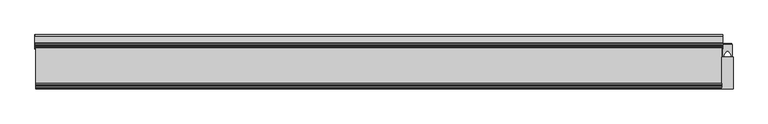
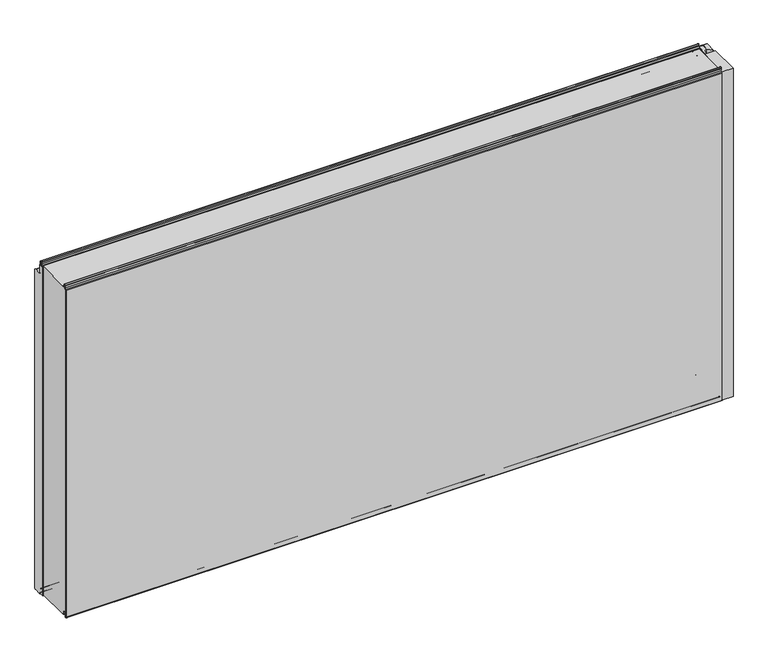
"""IFC4 building model written with IfcOpenShell, lengths in millimetres: plate geometry, Fronttop : Fronttop 150/1000."""

from ifc_helpers import new_model, si_unit, point, frame, frame_2d, origin, origin_with_axes, place, context, project, spatial, polyline, circle_curve, trimmed, segment, composite_curve, outline, extrude, source, transform, mapped, element, save
from ifc_brep_helpers import plane_surface, cylinder_surface, revolved_surface, advanced_brep


def plate_a692c527(model_context):
    return source(origin(), model_context, "Body", "SolidModel", [
        advanced_brep(
        [(-946.5, 124.0, 1008.0), (-946.5, 121.0, 1008.0), (-946.5, 121.0, 1004.0), (-946.5, 117.0, 1000.0), (-946.5, 115.0, 1000.0), (-946.5, 115.0, 1001.0), (-946.5, 117.0, 1001.0), (-946.5, 120.0, 1004.0), (-946.5, 120.0, 1008.0), (-946.5, 125.0, 1008.0), (-946.5, 125.0, 1000.0), (-946.5, 124.0, 1000.0), (946.5, 125.0, 1008.0), (946.5, 120.0, 1008.0), (946.5, 120.0, 1004.0), (946.5, 117.0, 1001.0), (946.5, 115.0, 1001.0), (946.5, 115.0, 1000.0), (946.5, 117.0, 1000.0), (946.5, 121.0, 1004.0), (946.5, 121.0, 1008.0), (946.5, 124.0, 1008.0), (946.5, 124.0, 1000.0), (946.5, 125.0, 1000.0), (-946.5, 117.0, 2.0), (946.5, 117.0, 2.0), (946.5, 115.0, 2.0), (-946.5, 115.0, 2.0), (-946.5, 119.0, 4.0), (946.5, 119.0, 4.0), (-946.5, 119.0, 8.0), (946.5, 119.0, 8.0), (-946.5, 126.0, 8.0), (946.5, 126.0, 8.0), (-946.5, 126.0, 0.0), (946.5, 126.0, 0.0), (-946.5, 129.0, -3.0), (946.5, 129.0, -3.0), (-946.5, 125.0, -3.0), (-947.5, 125.0, -3.0), (-947.5, 147.0, -3.0), (-946.5, 147.0, -3.0), (946.5, 147.0, -3.0), (947.5, 147.0, -3.0), (947.5, 125.0, -3.0), (946.5, 125.0, -3.0), (-946.5, 150.0, 0.0), (946.5, 150.0, 0.0), (-947.5, 150.0, 0.0), (-947.5, 150.0, 969.0), (-946.5, 150.0, 969.0), (946.5, 150.0, 969.0), (947.5, 150.0, 969.0), (947.5, 150.0, 0.0), (-946.5, 147.0, 972.0), (946.5, 147.0, 972.0), (-947.5, 147.0, 972.0), (-947.5, 128.0, 972.0), (-946.5, 128.0, 972.0), (946.5, 128.0, 972.0), (947.5, 128.0, 972.0), (947.5, 147.0, 972.0), (-946.5, 125.0, 975.0), (946.5, 125.0, 975.0), (-947.5, 125.0, 975.0), (-947.5, 125.0, 1000.0), (947.5, 125.0, 1000.0), (947.5, 125.0, 975.0), (-946.5, 124.0, 975.0), (946.5, 124.0, 975.0), (-946.5, 128.0, 971.0), (946.5, 128.0, 971.0), (-946.5, 147.0, 971.0), (946.5, 147.0, 971.0), (-946.5, 149.0, 969.0), (946.5, 149.0, 969.0), (-946.5, 149.0, 0.0), (946.5, 149.0, 0.0), (-946.5, 147.0, -2.0), (946.5, 147.0, -2.0), (-946.5, 129.0, -2.0), (946.5, 129.0, -2.0), (-946.5, 127.0, 0.0), (946.5, 127.0, 0.0), (-946.5, 127.0, 8.0), (946.5, 127.0, 8.0), (-946.5, 118.0, 8.0), (946.5, 118.0, 8.0), (-946.5, 118.0, 4.0), (946.5, 118.0, 4.0), (-946.5, 117.0, 3.0), (946.5, 117.0, 3.0), (-946.5, 115.0, 3.0), (946.5, 115.0, 3.0), (947.5, 110.0, 1000.0), (947.5, 110.0, 0.0), (947.5, 125.0, 0.0), (946.5, 125.0, 0.0), (946.5, 110.0, 0.0), (946.5, 110.0, 1000.0), (-947.5, 125.0, 0.0), (-947.5, 110.0, 0.0), (-947.5, 110.0, 1000.0), (-946.5, 110.0, 1000.0), (-946.5, 110.0, 0.0), (-946.5, 125.0, 0.0)],
        [
            (0, 1, circle_curve(frame((-946.5, 122.5, 1008.0), z_axis=(1.0, 0.0, 0.0), x_axis=(0.0, -1.0, 0.0)), 1.5)),
            (1, 2),
            (2, 3, circle_curve(frame((-946.5, 117.0, 1004.0), z_axis=(-1.0, 0.0, 0.0), x_axis=(0.0, -1.0, 0.0)), 4.0)),
            (3, 4),
            (4, 5),
            (5, 6),
            (6, 7, circle_curve(frame((-946.5, 117.0, 1004.0), z_axis=(1.0, 0.0, 0.0), x_axis=(0.0, -1.0, 0.0)), 3.0)),
            (7, 8),
            (8, 9, circle_curve(frame((-946.5, 122.5, 1008.0), z_axis=(-1.0, 0.0, 0.0), x_axis=(0.0, -1.0, 0.0)), 2.5)),
            (9, 10),
            (10, 11),
            (11, 0),
            (12, 13, circle_curve(frame((946.5, 122.5, 1008.0), z_axis=(1.0, 0.0, 0.0), x_axis=(0.0, -1.0, 0.0)), 2.5)),
            (13, 14),
            (14, 15, circle_curve(frame((946.5, 117.0, 1004.0), z_axis=(-1.0, 0.0, 0.0), x_axis=(0.0, -1.0, 0.0)), 3.0)),
            (15, 16),
            (16, 17),
            (17, 18),
            (18, 19, circle_curve(frame((946.5, 117.0, 1004.0), z_axis=(1.0, 0.0, 0.0), x_axis=(0.0, -1.0, 0.0)), 4.0)),
            (19, 20),
            (20, 21, circle_curve(frame((946.5, 122.5, 1008.0), z_axis=(-1.0, 0.0, 0.0), x_axis=(0.0, -1.0, 0.0)), 1.5)),
            (21, 22),
            (22, 23),
            (23, 12),
            (24, 25),
            (25, 26),
            (26, 27),
            (27, 24),
            (24, 28, circle_curve(frame((-946.5, 117.0, 4.0), z_axis=(1.0, 0.0, 0.0), x_axis=(0.0, -1.0, 0.0)), 2.0)),
            (28, 29),
            (29, 25, circle_curve(frame((946.5, 117.0, 4.0), z_axis=(-1.0, 0.0, 0.0), x_axis=(0.0, -1.0, 0.0)), 2.0)),
            (28, 30),
            (30, 31),
            (31, 29),
            (30, 32, circle_curve(frame((-946.5, 122.5, 8.0), z_axis=(-1.0, 0.0, 0.0), x_axis=(0.0, -1.0, 0.0)), 3.5)),
            (32, 33),
            (33, 31, circle_curve(frame((946.5, 122.5, 8.0), z_axis=(1.0, 0.0, 0.0), x_axis=(0.0, -1.0, 0.0)), 3.5)),
            (32, 34),
            (34, 35),
            (35, 33),
            (34, 36, circle_curve(frame((-946.5, 129.0, 0.0), z_axis=(1.0, 0.0, 0.0), x_axis=(0.0, -1.0, 0.0)), 3.0)),
            (36, 37),
            (37, 35, circle_curve(frame((946.5, 129.0, 0.0), z_axis=(-1.0, 0.0, 0.0), x_axis=(0.0, -1.0, 0.0)), 3.0)),
            (36, 38),
            (38, 39),
            (39, 40),
            (40, 41),
            (41, 42),
            (42, 43),
            (43, 44),
            (44, 45),
            (45, 37),
            (41, 46, circle_curve(frame((-946.5, 147.0, 0.0), z_axis=(1.0, 0.0, 0.0), x_axis=(0.0, -1.0, 0.0)), 3.0)),
            (46, 47),
            (47, 42, circle_curve(frame((946.5, 147.0, 0.0), z_axis=(-1.0, 0.0, 0.0), x_axis=(0.0, -1.0, 0.0)), 3.0)),
            (46, 48),
            (48, 49),
            (49, 50),
            (50, 51),
            (51, 52),
            (52, 53),
            (53, 47),
            (50, 54, circle_curve(frame((-946.5, 147.0, 969.0), z_axis=(1.0, 0.0, 0.0), x_axis=(0.0, -1.0, 0.0)), 3.0)),
            (54, 55),
            (55, 51, circle_curve(frame((946.5, 147.0, 969.0), z_axis=(-1.0, 0.0, 0.0), x_axis=(0.0, -1.0, 0.0)), 3.0)),
            (54, 56),
            (56, 57),
            (57, 58),
            (58, 59),
            (59, 60),
            (60, 61),
            (61, 55),
            (58, 62, circle_curve(frame((-946.5, 128.0, 975.0), z_axis=(-1.0, 0.0, 0.0), x_axis=(0.0, -1.0, 0.0)), 3.0)),
            (62, 63),
            (63, 59, circle_curve(frame((946.5, 128.0, 975.0), z_axis=(1.0, 0.0, 0.0), x_axis=(0.0, -1.0, 0.0)), 3.0)),
            (62, 64),
            (64, 65),
            (65, 10),
            (9, 12),
            (23, 66),
            (66, 67),
            (67, 63),
            (8, 13),
            (7, 14),
            (6, 15),
            (5, 16),
            (4, 17),
            (4, 3),
            (3, 18),
            (18, 17),
            (2, 19),
            (1, 20),
            (0, 21),
            (11, 68),
            (68, 69),
            (69, 22),
            (68, 70, circle_curve(frame((-946.5, 128.0, 975.0), z_axis=(1.0, 0.0, 0.0), x_axis=(0.0, -1.0, 0.0)), 4.0)),
            (70, 71),
            (71, 69, circle_curve(frame((946.5, 128.0, 975.0), z_axis=(-1.0, 0.0, 0.0), x_axis=(0.0, -1.0, 0.0)), 4.0)),
            (70, 72),
            (72, 73),
            (73, 71),
            (72, 74, circle_curve(frame((-946.5, 147.0, 969.0), z_axis=(-1.0, 0.0, 0.0), x_axis=(0.0, -1.0, 0.0)), 2.0)),
            (74, 75),
            (75, 73, circle_curve(frame((946.5, 147.0, 969.0), z_axis=(1.0, 0.0, 0.0), x_axis=(0.0, -1.0, 0.0)), 2.0)),
            (74, 76),
            (76, 77),
            (77, 75),
            (76, 78, circle_curve(frame((-946.5, 147.0, 0.0), z_axis=(-1.0, 0.0, 0.0), x_axis=(0.0, -1.0, 0.0)), 2.0)),
            (78, 79),
            (79, 77, circle_curve(frame((946.5, 147.0, 0.0), z_axis=(1.0, 0.0, 0.0), x_axis=(0.0, -1.0, 0.0)), 2.0)),
            (78, 80),
            (80, 81),
            (81, 79),
            (80, 82, circle_curve(frame((-946.5, 129.0, 0.0), z_axis=(-1.0, 0.0, 0.0), x_axis=(0.0, -1.0, 0.0)), 2.0)),
            (82, 83),
            (83, 81, circle_curve(frame((946.5, 129.0, 0.0), z_axis=(1.0, 0.0, 0.0), x_axis=(0.0, -1.0, 0.0)), 2.0)),
            (82, 84),
            (84, 85),
            (85, 83),
            (84, 86, circle_curve(frame((-946.5, 122.5, 8.0), z_axis=(1.0, 0.0, 0.0), x_axis=(0.0, -1.0, 0.0)), 4.5)),
            (86, 87),
            (87, 85, circle_curve(frame((946.5, 122.5, 8.0), z_axis=(-1.0, 0.0, 0.0), x_axis=(0.0, -1.0, 0.0)), 4.5)),
            (86, 88),
            (88, 89),
            (89, 87),
            (88, 90, circle_curve(frame((-946.5, 117.0, 4.0), z_axis=(-1.0, 0.0, 0.0), x_axis=(0.0, -1.0, 0.0)), 1.0)),
            (90, 91),
            (91, 89, circle_curve(frame((946.5, 117.0, 4.0), z_axis=(1.0, 0.0, 0.0), x_axis=(0.0, -1.0, 0.0)), 1.0)),
            (90, 92),
            (92, 93),
            (93, 91),
            (26, 93),
            (92, 27),
            (66, 94),
            (94, 95),
            (95, 96),
            (96, 44),
            (43, 53, circle_curve(frame((947.5, 147.0, 0.0), z_axis=(1.0, 0.0, 0.0), x_axis=(0.0, 1.0, 0.0)), 3.0)),
            (52, 61, circle_curve(frame((947.5, 147.0, 969.0), z_axis=(1.0, 0.0, 0.0), x_axis=(0.0, 1.0, 0.0)), 3.0)),
            (60, 67, circle_curve(frame((947.5, 128.0, 975.0), z_axis=(-1.0, 0.0, 0.0), x_axis=(0.0, 1.0, 0.0)), 3.0)),
            (45, 97),
            (97, 98),
            (98, 99),
            (99, 17),
            (18, 22),
            (99, 94),
            (98, 95),
            (97, 96),
            (64, 57, circle_curve(frame((-947.5, 128.0, 975.0), z_axis=(1.0, 0.0, 0.0), x_axis=(0.0, 1.0, 0.0)), 3.0)),
            (56, 49, circle_curve(frame((-947.5, 147.0, 969.0), z_axis=(-1.0, 0.0, 0.0), x_axis=(0.0, 1.0, 0.0)), 3.0)),
            (48, 40, circle_curve(frame((-947.5, 147.0, 0.0), z_axis=(-1.0, 0.0, 0.0), x_axis=(0.0, 1.0, 0.0)), 3.0)),
            (39, 100),
            (100, 101),
            (101, 102),
            (102, 65),
            (103, 104),
            (104, 105),
            (105, 38),
            (11, 3),
            (4, 103),
            (102, 103),
            (101, 104),
            (100, 105),
        ],
        [
            plane_surface(frame((-946.5, 0.0, 0.0), z_axis=(-1.0, 0.0, 0.0), x_axis=(0.0, 0.0, 1.0))),
            plane_surface(frame((946.5, 0.0, 0.0), z_axis=(1.0, 0.0, 0.0), x_axis=(0.0, 0.0, 1.0))),
            plane_surface(frame((-946.5, 117.0, 2.0), z_axis=(0.0, 0.0, -1.0), x_axis=(1.0, 0.0, 0.0))),
            cylinder_surface(frame((-946.5, 117.0, 4.0), z_axis=(-1.0, 0.0, 0.0), x_axis=(0.0, -1.0, 0.0)), 2.0),
            plane_surface(frame((-946.5, 119.0, 8.0), z_axis=(0.0, 1.0, 0.0), x_axis=(1.0, 0.0, 0.0))),
            revolved_surface(polyline([(946.5, 119.0, 8.0), (-946.5, 119.0, 8.0)]), (-946.5, 122.5, 8.0), (1.0, 0.0, 0.0)),
            plane_surface(frame((-946.5, 126.0, 0.0), z_axis=(0.0, -1.0, 0.0), x_axis=(1.0, 0.0, 0.0))),
            cylinder_surface(frame((-946.5, 129.0, 0.0), z_axis=(-1.0, 0.0, 0.0), x_axis=(0.0, -1.0, 0.0)), 3.0),
            plane_surface(frame((-946.5, 147.0, -3.0), z_axis=(0.0, 0.0, -1.0), x_axis=(1.0, 0.0, 0.0))),
            cylinder_surface(frame((-946.5, 147.0, 0.0), z_axis=(-1.0, 0.0, 0.0), x_axis=(0.0, -1.0, 0.0)), 3.0),
            plane_surface(frame((-946.5, 150.0, 969.0), z_axis=(0.0, 1.0, 0.0), x_axis=(1.0, 0.0, 0.0))),
            cylinder_surface(frame((-946.5, 147.0, 969.0), z_axis=(-1.0, 0.0, 0.0), x_axis=(0.0, -1.0, 0.0)), 3.0),
            plane_surface(frame((-946.5, 128.0, 972.0), z_axis=(0.0, 0.0, 1.0), x_axis=(1.0, 0.0, 0.0))),
            revolved_surface(polyline([(946.5, 125.0, 975.0), (-946.5, 125.0, 975.0)]), (-946.5, 128.0, 975.0), (1.0, 0.0, 0.0)),
            plane_surface(frame((-946.5, 125.0, 1008.0), z_axis=(0.0, 1.0, 0.0), x_axis=(1.0, 0.0, 0.0))),
            cylinder_surface(frame((-946.5, 122.5, 1008.0), z_axis=(-1.0, 0.0, 0.0), x_axis=(0.0, -1.0, 0.0)), 2.5),
            plane_surface(frame((-946.5, 120.0, 1004.0), z_axis=(0.0, -1.0, 0.0), x_axis=(1.0, 0.0, 0.0))),
            revolved_surface(polyline([(946.5, 114.0, 1004.0), (-946.5, 114.0, 1004.0)]), (-946.5, 117.0, 1004.0), (1.0, 0.0, 0.0)),
            plane_surface(frame((-946.5, 115.0, 1001.0), z_axis=(0.0, 0.0, 1.0), x_axis=(1.0, 0.0, 0.0))),
            plane_surface(frame((-946.5, 115.0, 1000.0), z_axis=(0.0, -1.0, 0.0), x_axis=(1.0, 0.0, 0.0))),
            plane_surface(frame((-946.5, 117.0, 1000.0), z_axis=(0.0, 0.0, -1.0), x_axis=(1.0, 0.0, 0.0))),
            cylinder_surface(frame((-946.5, 117.0, 1004.0), z_axis=(-1.0, 0.0, 0.0), x_axis=(0.0, -1.0, 0.0)), 4.0),
            plane_surface(frame((-946.5, 121.0, 1008.0), z_axis=(0.0, 1.0, 0.0), x_axis=(1.0, 0.0, 0.0))),
            revolved_surface(polyline([(946.5, 121.0, 1008.0), (-946.5, 121.0, 1008.0)]), (-946.5, 122.5, 1008.0), (1.0, 0.0, 0.0)),
            plane_surface(frame((-946.5, 124.0, 975.0), z_axis=(0.0, -1.0, 0.0), x_axis=(1.0, 0.0, 0.0))),
            cylinder_surface(frame((-946.5, 128.0, 975.0), z_axis=(-1.0, 0.0, 0.0), x_axis=(0.0, -1.0, 0.0)), 4.0),
            plane_surface(frame((-946.5, 147.0, 971.0), z_axis=(0.0, 0.0, -1.0), x_axis=(1.0, 0.0, 0.0))),
            revolved_surface(polyline([(946.5, 145.0, 969.0), (-946.5, 145.0, 969.0)]), (-946.5, 147.0, 969.0), (1.0, 0.0, 0.0)),
            plane_surface(frame((-946.5, 149.0, 0.0), z_axis=(0.0, -1.0, 0.0), x_axis=(1.0, 0.0, 0.0))),
            revolved_surface(polyline([(946.5, 145.0, 0.0), (-946.5, 145.0, 0.0)]), (-946.5, 147.0, 0.0), (1.0, 0.0, 0.0)),
            plane_surface(frame((-946.5, 129.0, -2.0), z_axis=(0.0, 0.0, 1.0), x_axis=(1.0, 0.0, 0.0))),
            revolved_surface(polyline([(946.5, 127.0, 0.0), (-946.5, 127.0, 0.0)]), (-946.5, 129.0, 0.0), (1.0, 0.0, 0.0)),
            plane_surface(frame((-946.5, 127.0, 8.0), z_axis=(0.0, 1.0, 0.0), x_axis=(1.0, 0.0, 0.0))),
            cylinder_surface(frame((-946.5, 122.5, 8.0), z_axis=(-1.0, 0.0, 0.0), x_axis=(0.0, -1.0, 0.0)), 4.5),
            plane_surface(frame((-946.5, 118.0, 4.0), z_axis=(0.0, -1.0, 0.0), x_axis=(1.0, 0.0, 0.0))),
            revolved_surface(polyline([(946.5, 116.0, 4.0), (-946.5, 116.0, 4.0)]), (-946.5, 117.0, 4.0), (1.0, 0.0, 0.0)),
            plane_surface(frame((-946.5, 115.0, 3.0), z_axis=(0.0, 0.0, 1.0), x_axis=(1.0, 0.0, 0.0))),
            plane_surface(frame((-946.5, 115.0, 2.0), z_axis=(0.0, -1.0, 0.0), x_axis=(1.0, 0.0, 0.0))),
            plane_surface(frame((947.5, 125.0, 1000.0), z_axis=(1.0, 0.0, 0.0), x_axis=(0.0, -1.0, 0.0))),
            plane_surface(frame((946.5, 125.0, 1000.0), z_axis=(-1.0, 0.0, 0.0), x_axis=(0.0, 1.0, 0.0))),
            plane_surface(frame((947.5, 125.0, 1000.0), z_axis=(0.0, 0.0, 1.0), x_axis=(-1.0, 0.0, 0.0))),
            plane_surface(frame((947.5, 110.0, 1000.0), z_axis=(0.0, -1.0, 0.0), x_axis=(-1.0, 0.0, 0.0))),
            plane_surface(frame((947.5, 110.0, 0.0), z_axis=(0.0, 0.0, -1.0), x_axis=(-1.0, 0.0, 0.0))),
            cylinder_surface(frame((946.5, 147.0, 0.0), z_axis=(1.0, 0.0, 0.0), x_axis=(0.0, 1.0, 0.0)), 3.0),
            cylinder_surface(frame((946.5, 147.0, 969.0), z_axis=(1.0, 0.0, 0.0), x_axis=(0.0, 1.0, 0.0)), 3.0),
            revolved_surface(polyline([(946.5, 131.0, 975.0), (947.5, 131.0, 975.0)]), (946.5, 128.0, 975.0), (-1.0, 0.0, 0.0)),
            plane_surface(frame((-947.5, 125.0, 1000.0), z_axis=(-1.0, 0.0, 0.0), x_axis=(0.0, 1.0, 0.0))),
            plane_surface(frame((-946.5, 125.0, 1000.0), z_axis=(1.0, 0.0, 0.0), x_axis=(0.0, -1.0, 0.0))),
            plane_surface(frame((-946.5, 125.0, 1000.0), z_axis=(0.0, 0.0, 1.0), x_axis=(-1.0, 0.0, 0.0))),
            plane_surface(frame((-946.5, 110.0, 1000.0), z_axis=(0.0, -1.0, 0.0), x_axis=(-1.0, 0.0, 0.0))),
            plane_surface(frame((-946.5, 110.0, 0.0), z_axis=(0.0, 0.0, -1.0), x_axis=(-1.0, 0.0, 0.0))),
            cylinder_surface(frame((-947.5, 147.0, 0.0), z_axis=(1.0, 0.0, 0.0), x_axis=(0.0, 1.0, 0.0)), 3.0),
            cylinder_surface(frame((-947.5, 147.0, 969.0), z_axis=(1.0, 0.0, 0.0), x_axis=(0.0, 1.0, 0.0)), 3.0),
            revolved_surface(polyline([(-947.5, 131.0, 975.0), (-946.5, 131.0, 975.0)]), (-947.5, 128.0, 975.0), (-1.0, 0.0, 0.0)),
            plane_surface(frame((947.5, 125.0, 0.0), z_axis=(0.0, -1.0, 0.0), x_axis=(-1.0, 0.0, 0.0))),
            plane_surface(frame((-946.5, 125.0, 0.0), z_axis=(0.0, -1.0, 0.0), x_axis=(-1.0, 0.0, 0.0))),
        ],
        [
            (0, [[1, 2, 3, 4, 5, 6, 7, 8, 9, 10, 11, 12]]),
            (1, [[13, 14, 15, 16, 17, 18, 19, 20, 21, 22, 23, 24]]),
            (2, [[25, 26, 27, 28]]),
            (3, [[-25, 29, 30, 31]]),
            (4, [[-30, 32, 33, 34]]),
            (5, [[-33, 35, 36, 37]]),
            (6, [[-36, 38, 39, 40]]),
            (7, [[-39, 41, 42, 43]]),
            (8, [[-42, 44, 45, 46, 47, 48, 49, 50, 51, 52]]),
            (9, [[-48, 53, 54, 55]]),
            (10, [[-54, 56, 57, 58, 59, 60, 61, 62]]),
            (11, [[-59, 63, 64, 65]]),
            (12, [[-64, 66, 67, 68, 69, 70, 71, 72]]),
            (13, [[-69, 73, 74, 75]]),
            (14, [[-74, 76, 77, 78, -10, 79, -24, 80, 81, 82]]),
            (15, [[-9, 83, -13, -79]]),
            (16, [[-8, 84, -14, -83]]),
            (17, [[-7, 85, -15, -84]]),
            (18, [[-6, 86, -16, -85]]),
            (19, [[-5, 87, -17, -86]]),
            (20, [[-87, 88, 89, 90]]),
            (21, [[-3, 91, -19, -89]]),
            (22, [[-2, 92, -20, -91]]),
            (23, [[-1, 93, -21, -92]]),
            (24, [[-93, -12, 94, 95, 96, -22]]),
            (25, [[-95, 97, 98, 99]]),
            (26, [[-98, 100, 101, 102]]),
            (27, [[-101, 103, 104, 105]]),
            (28, [[-104, 106, 107, 108]]),
            (29, [[-107, 109, 110, 111]]),
            (30, [[-110, 112, 113, 114]]),
            (31, [[-113, 115, 116, 117]]),
            (32, [[-116, 118, 119, 120]]),
            (33, [[-119, 121, 122, 123]]),
            (34, [[-122, 124, 125, 126]]),
            (35, [[-125, 127, 128, 129]]),
            (36, [[-128, 130, 131, 132]]),
            (37, [[-27, 133, -131, 134]]),
            (38, [[135, 136, 137, 138, -50, 139, -61, 140, -71, 141, -81]]),
            (39, [[142, 143, 144, 145, -90, 146, -96, -99, -102, -105, -108, -111, -114, -117, -120, -123, -126, -129, -132, -133, -26, -31, -34, -37, -40, -43, -52]]),
            (40, [[-135, -80, -23, -146, -18, -145, 147]]),
            (41, [[-136, -147, -144, 148]]),
            (42, [[-137, -148, -143, 149]]),
            (43, [[-139, -49, -55, -62]]),
            (44, [[-140, -60, -65, -72]]),
            (45, [[-141, -70, -75, -82]]),
            (46, [[-77, 150, -67, 151, -57, 152, -46, 153, 154, 155, 156]]),
            (47, [[157, 158, 159, -44, -41, -38, -35, -32, -29, -28, -134, -130, -127, -124, -121, -118, -115, -112, -109, -106, -103, -100, -97, -94, 160, -88, 161]]),
            (48, [[-156, 162, -161, -4, -160, -11, -78]]),
            (49, [[-155, 163, -157, -162]]),
            (50, [[-154, 164, -158, -163]]),
            (51, [[-152, -56, -53, -47]]),
            (52, [[-151, -66, -63, -58]]),
            (53, [[-150, -76, -73, -68]]),
            (54, [[-138, -149, -142, -51]]),
            (55, [[-153, -45, -159, -164]]),
        ],
    ),
        extrude(outline(composite_curve([segment(polyline([(947.4998455, 123.5), (959.25, 123.5), (959.25, 107.5), (960.75, 107.5), (960.75, 123.5), (972.5001545, 123.5), (972.5001545, 90.0), (969.75, 90.0), (969.75, 92.5)]), True, "CONTINUOUS"), segment(trimmed(circle_curve(frame_2d((951.9661979, 89.3183984)), 18.0661619), [point((969.75, 92.5))], [point((960.0, 105.5))], True, "CARTESIAN"), True, "CONTINUOUS"), segment(trimmed(circle_curve(frame_2d((968.0338021, 89.3183984)), 18.0661619), [point((960.0, 105.5))], [point((950.25, 92.5))], True, "CARTESIAN"), True, "CONTINUOUS"), segment(polyline([(950.25, 92.5), (950.25, 90.0), (947.4998455, 90.0), (947.4998455, 123.5)]), True, "CONTINUOUS")], self_intersect=False)), origin_with_axes(), (0.0, 0.0, 1.0), 1000.0),
        extrude(outline(polyline([(975.5, 0.0), (944.5, 0.0), (944.5, 88.0), (975.5, 88.0), (975.5, 0.0)])), origin_with_axes(), (0.0, 0.0, 1.0), 1000.0),
        extrude(outline(polyline([(948.4948846, 125.0), (971.5051154, 125.0), (971.5051154, 123.5), (960.6502496, 123.5), (960.6502496, 109.0759655), (959.35, 109.0759655), (959.35, 123.5), (948.4948846, 123.5), (948.4948846, 125.0)])), origin_with_axes(), (0.0, 0.0, 1.0), 1000.0),
        advanced_brep(
        [(-944.5, 13.0, 1001.0), (-944.5, 15.0, 1001.0), (-944.5, 15.0, 1000.0), (-944.5, 13.0, 1000.0), (-944.5, 9.0, 1004.0), (-944.5, 9.0, 1008.0), (-944.5, 6.0, 1008.0), (-944.5, 6.0, 999.5), (-944.5, 2.1134897, 996.0214069), (-944.5, 1.0, 995.0), (-944.5, 1.0, -0.5), (-944.5, 3.0, -0.5), (-944.5, 3.0, 8.0), (-944.5, 12.0, 8.0), (-944.5, 12.0, 4.0), (-944.5, 13.0, 3.0), (-944.5, 15.0, 3.0), (-944.5, 15.0, 2.0), (-944.5, 13.0, 2.0), (-944.5, 11.0, 4.0), (-944.5, 11.0, 8.0), (-944.5, 4.0, 8.0), (-944.5, 4.0, -0.5), (-944.5, 0.0, -0.5), (-944.5, 0.0, 995.0), (-944.5, 2.220863, 996.9877675), (-944.5, 5.0, 999.5), (-944.5, 5.0, 1008.0), (-944.5, 10.0, 1008.0), (-944.5, 10.0, 1004.0), (944.5, 13.0, 1001.0), (944.5, 10.0, 1004.0), (944.5, 10.0, 1008.0), (944.5, 5.0, 1008.0), (944.5, 5.0, 999.5), (944.5, 2.2239212, 997.0152907), (944.5, 0.0, 995.0), (944.5, 0.0, -0.5), (944.5, 4.0, -0.5), (944.5, 4.0, 8.0), (944.5, 11.0, 8.0), (944.5, 11.0, 4.0), (944.5, 13.0, 2.0), (944.5, 15.0, 2.0), (944.5, 15.0, 3.0), (944.5, 13.0, 3.0), (944.5, 12.0, 4.0), (944.5, 12.0, 8.0), (944.5, 3.0, 8.0), (944.5, 3.0, -0.5), (944.5, 1.0, -0.5), (944.5, 1.0, 995.0), (944.5, 2.1104315, 995.9938837), (944.5, 6.0, 999.5), (944.5, 6.0, 1008.0), (944.5, 9.0, 1008.0), (944.5, 9.0, 1004.0), (944.5, 13.0, 1000.0), (944.5, 15.0, 1000.0), (944.5, 15.0, 1001.0)],
        [
            (0, 1),
            (1, 2),
            (2, 3),
            (3, 4, circle_curve(frame((-944.5, 13.0, 1004.0), z_axis=(-1.0, 0.0, 0.0), x_axis=(0.0, -1.0, 0.0)), 4.0)),
            (4, 5),
            (5, 6, circle_curve(frame((-944.5, 7.5, 1008.0), z_axis=(1.0, 0.0, 0.0), x_axis=(0.0, -1.0, 0.0)), 1.5)),
            (6, 7),
            (7, 8, circle_curve(frame((-944.5, 2.5, 999.5), z_axis=(-1.0, 0.0, 0.0), x_axis=(0.0, -1.0, 0.0)), 3.5)),
            (8, 9, circle_curve(frame((-944.5, 2.0, 995.0), z_axis=(1.0, 0.0, 0.0), x_axis=(0.0, -1.0, 0.0)), 1.0)),
            (9, 10),
            (10, 11, circle_curve(frame((-944.5, 2.0, -0.5), z_axis=(1.0, 0.0, 0.0), x_axis=(0.0, -1.0, 0.0)), 1.0)),
            (11, 12),
            (12, 13, circle_curve(frame((-944.5, 7.5, 8.0), z_axis=(-1.0, 0.0, 0.0), x_axis=(0.0, -1.0, 0.0)), 4.5)),
            (13, 14),
            (14, 15, circle_curve(frame((-944.5, 13.0, 4.0), z_axis=(1.0, 0.0, 0.0), x_axis=(0.0, -1.0, 0.0)), 1.0)),
            (15, 16),
            (16, 17),
            (17, 18),
            (18, 19, circle_curve(frame((-944.5, 13.0, 4.0), z_axis=(-1.0, 0.0, 0.0), x_axis=(0.0, -1.0, 0.0)), 2.0)),
            (19, 20),
            (20, 21, circle_curve(frame((-944.5, 7.5, 8.0), z_axis=(1.0, 0.0, 0.0), x_axis=(0.0, -1.0, 0.0)), 3.5)),
            (21, 22),
            (22, 23, circle_curve(frame((-944.5, 2.0, -0.5), z_axis=(-1.0, 0.0, 0.0), x_axis=(0.0, -1.0, 0.0)), 2.0)),
            (23, 24),
            (24, 25, circle_curve(frame((-944.5, 2.0, 995.0), z_axis=(-1.0, 0.0, 0.0), x_axis=(0.0, -1.0, 0.0)), 2.0)),
            (25, 26, circle_curve(frame((-944.5, 2.5, 999.5), z_axis=(1.0, 0.0, 0.0), x_axis=(0.0, -1.0, 0.0)), 2.5)),
            (26, 27),
            (27, 28, circle_curve(frame((-944.5, 7.5, 1008.0), z_axis=(-1.0, 0.0, 0.0), x_axis=(0.0, -1.0, 0.0)), 2.5)),
            (28, 29),
            (29, 0, circle_curve(frame((-944.5, 13.0, 1004.0), z_axis=(1.0, 0.0, 0.0), x_axis=(0.0, -1.0, 0.0)), 3.0)),
            (30, 31, circle_curve(frame((944.5, 13.0, 1004.0), z_axis=(-1.0, 0.0, 0.0), x_axis=(0.0, -1.0, 0.0)), 3.0)),
            (31, 32),
            (32, 33, circle_curve(frame((944.5, 7.5, 1008.0), z_axis=(1.0, 0.0, 0.0), x_axis=(0.0, -1.0, 0.0)), 2.5)),
            (33, 34),
            (34, 35, circle_curve(frame((944.5, 2.5, 999.5), z_axis=(-1.0, 0.0, 0.0), x_axis=(0.0, -1.0, 0.0)), 2.5)),
            (35, 36, circle_curve(frame((944.5, 2.0, 995.0), z_axis=(1.0, 0.0, 0.0), x_axis=(0.0, -1.0, 0.0)), 2.0)),
            (36, 37),
            (37, 38, circle_curve(frame((944.5, 2.0, -0.5), z_axis=(1.0, 0.0, 0.0), x_axis=(0.0, -1.0, 0.0)), 2.0)),
            (38, 39),
            (39, 40, circle_curve(frame((944.5, 7.5, 8.0), z_axis=(-1.0, 0.0, 0.0), x_axis=(0.0, -1.0, 0.0)), 3.5)),
            (40, 41),
            (41, 42, circle_curve(frame((944.5, 13.0, 4.0), z_axis=(1.0, 0.0, 0.0), x_axis=(0.0, -1.0, 0.0)), 2.0)),
            (42, 43),
            (43, 44),
            (44, 45),
            (45, 46, circle_curve(frame((944.5, 13.0, 4.0), z_axis=(-1.0, 0.0, 0.0), x_axis=(0.0, -1.0, 0.0)), 1.0)),
            (46, 47),
            (47, 48, circle_curve(frame((944.5, 7.5, 8.0), z_axis=(1.0, 0.0, 0.0), x_axis=(0.0, -1.0, 0.0)), 4.5)),
            (48, 49),
            (49, 50, circle_curve(frame((944.5, 2.0, -0.5), z_axis=(-1.0, 0.0, 0.0), x_axis=(0.0, -1.0, 0.0)), 1.0)),
            (50, 51),
            (51, 52, circle_curve(frame((944.5, 2.0, 995.0), z_axis=(-1.0, 0.0, 0.0), x_axis=(0.0, -1.0, 0.0)), 1.0)),
            (52, 53, circle_curve(frame((944.5, 2.5, 999.5), z_axis=(1.0, 0.0, 0.0), x_axis=(0.0, -1.0, 0.0)), 3.5)),
            (53, 54),
            (54, 55, circle_curve(frame((944.5, 7.5, 1008.0), z_axis=(-1.0, 0.0, 0.0), x_axis=(0.0, -1.0, 0.0)), 1.5)),
            (55, 56),
            (56, 57, circle_curve(frame((944.5, 13.0, 1004.0), z_axis=(1.0, 0.0, 0.0), x_axis=(0.0, -1.0, 0.0)), 4.0)),
            (57, 58),
            (58, 59),
            (59, 30),
            (0, 30),
            (59, 1),
            (58, 2),
            (57, 3),
            (56, 4),
            (55, 5),
            (54, 6),
            (53, 7),
            (52, 8),
            (51, 9),
            (50, 10),
            (49, 11),
            (48, 12),
            (47, 13),
            (46, 14),
            (45, 15),
            (44, 16),
            (43, 17),
            (42, 18),
            (41, 19),
            (40, 20),
            (39, 21),
            (38, 22),
            (37, 23),
            (36, 24),
            (35, 25),
            (34, 26),
            (33, 27),
            (32, 28),
            (31, 29),
        ],
        [
            plane_surface(frame((-944.5, 0.0, 0.0), z_axis=(-1.0, 0.0, 0.0), x_axis=(0.0, 0.0, 1.0))),
            plane_surface(frame((944.5, 0.0, 0.0), z_axis=(1.0, 0.0, 0.0), x_axis=(0.0, 0.0, 1.0))),
            plane_surface(frame((-944.5, 13.0, 1001.0), z_axis=(0.0, 0.0, 1.0), x_axis=(1.0, 0.0, 0.0))),
            plane_surface(frame((-944.5, 15.0, 1001.0), z_axis=(0.0, 1.0, 0.0), x_axis=(1.0, 0.0, 0.0))),
            plane_surface(frame((-944.5, 15.0, 1000.0), z_axis=(0.0, 0.0, -1.0), x_axis=(1.0, 0.0, 0.0))),
            cylinder_surface(frame((-944.5, 13.0, 1004.0), z_axis=(-1.0, 0.0, 0.0), x_axis=(0.0, -1.0, 0.0)), 4.0),
            plane_surface(frame((-944.5, 9.0, 1004.0), z_axis=(0.0, -1.0, 0.0), x_axis=(1.0, 0.0, 0.0))),
            revolved_surface(polyline([(944.5, 6.0, 1008.0), (-944.5, 6.0, 1008.0)]), (-944.5, 7.5, 1008.0), (1.0, 0.0, 0.0)),
            plane_surface(frame((-944.5, 6.0, 1008.0), z_axis=(0.0, 1.0, 0.0), x_axis=(1.0, 0.0, 0.0))),
            cylinder_surface(frame((-944.5, 2.5, 999.5), z_axis=(-1.0, 0.0, 0.0), x_axis=(0.0, -1.0, 0.0)), 3.5),
            revolved_surface(polyline([(944.5, 1.0, 995.0), (-944.5, 1.0, 995.0)]), (-944.5, 2.0, 995.0), (1.0, 0.0, 0.0)),
            plane_surface(frame((-944.5, 1.0, 995.0), z_axis=(0.0, 1.0, 0.0), x_axis=(1.0, 0.0, 0.0))),
            revolved_surface(polyline([(944.5, 1.0, -0.5), (-944.5, 1.0, -0.5)]), (-944.5, 2.0, -0.5), (1.0, 0.0, 0.0)),
            plane_surface(frame((-944.5, 3.0, -0.5), z_axis=(0.0, -1.0, 0.0), x_axis=(1.0, 0.0, 0.0))),
            cylinder_surface(frame((-944.5, 7.5, 8.0), z_axis=(-1.0, 0.0, 0.0), x_axis=(0.0, -1.0, 0.0)), 4.5),
            plane_surface(frame((-944.5, 12.0, 8.0), z_axis=(0.0, 1.0, 0.0), x_axis=(1.0, 0.0, 0.0))),
            revolved_surface(polyline([(944.5, 12.0, 4.0), (-944.5, 12.0, 4.0)]), (-944.5, 13.0, 4.0), (1.0, 0.0, 0.0)),
            plane_surface(frame((-944.5, 13.0, 3.0), z_axis=(0.0, 0.0, 1.0), x_axis=(1.0, 0.0, 0.0))),
            plane_surface(frame((-944.5, 15.0, 3.0), z_axis=(0.0, 1.0, 0.0), x_axis=(1.0, 0.0, 0.0))),
            plane_surface(frame((-944.5, 15.0, 2.0), z_axis=(0.0, 0.0, -1.0), x_axis=(1.0, 0.0, 0.0))),
            cylinder_surface(frame((-944.5, 13.0, 4.0), z_axis=(-1.0, 0.0, 0.0), x_axis=(0.0, -1.0, 0.0)), 2.0),
            plane_surface(frame((-944.5, 11.0, 4.0), z_axis=(0.0, -1.0, 0.0), x_axis=(1.0, 0.0, 0.0))),
            revolved_surface(polyline([(944.5, 4.0, 8.0), (-944.5, 4.0, 8.0)]), (-944.5, 7.5, 8.0), (1.0, 0.0, 0.0)),
            plane_surface(frame((-944.5, 4.0, 8.0), z_axis=(0.0, 1.0, 0.0), x_axis=(1.0, 0.0, 0.0))),
            cylinder_surface(frame((-944.5, 2.0, -0.5), z_axis=(-1.0, 0.0, 0.0), x_axis=(0.0, -1.0, 0.0)), 2.0),
            plane_surface(frame((-944.5, 0.0, -0.5), z_axis=(0.0, -1.0, 0.0), x_axis=(1.0, 0.0, 0.0))),
            cylinder_surface(frame((-944.5, 2.0, 995.0), z_axis=(-1.0, 0.0, 0.0), x_axis=(0.0, -1.0, 0.0)), 2.0),
            revolved_surface(polyline([(944.5, 0.0, 999.5), (-944.5, 0.0, 999.5)]), (-944.5, 2.5, 999.5), (1.0, 0.0, 0.0)),
            plane_surface(frame((-944.5, 5.0, 999.5), z_axis=(0.0, -1.0, 0.0), x_axis=(1.0, 0.0, 0.0))),
            cylinder_surface(frame((-944.5, 7.5, 1008.0), z_axis=(-1.0, 0.0, 0.0), x_axis=(0.0, -1.0, 0.0)), 2.5),
            plane_surface(frame((-944.5, 10.0, 1008.0), z_axis=(0.0, 1.0, 0.0), x_axis=(1.0, 0.0, 0.0))),
            revolved_surface(polyline([(944.5, 10.0, 1004.0), (-944.5, 10.0, 1004.0)]), (-944.5, 13.0, 1004.0), (1.0, 0.0, 0.0)),
        ],
        [
            (0, [[1, 2, 3, 4, 5, 6, 7, 8, 9, 10, 11, 12, 13, 14, 15, 16, 17, 18, 19, 20, 21, 22, 23, 24, 25, 26, 27, 28, 29, 30]]),
            (1, [[31, 32, 33, 34, 35, 36, 37, 38, 39, 40, 41, 42, 43, 44, 45, 46, 47, 48, 49, 50, 51, 52, 53, 54, 55, 56, 57, 58, 59, 60]]),
            (2, [[-1, 61, -60, 62]]),
            (3, [[-2, -62, -59, 63]]),
            (4, [[-3, -63, -58, 64]]),
            (5, [[-4, -64, -57, 65]]),
            (6, [[-5, -65, -56, 66]]),
            (7, [[-6, -66, -55, 67]]),
            (8, [[-7, -67, -54, 68]]),
            (9, [[-8, -68, -53, 69]]),
            (10, [[-9, -69, -52, 70]]),
            (11, [[-10, -70, -51, 71]]),
            (12, [[-11, -71, -50, 72]]),
            (13, [[-12, -72, -49, 73]]),
            (14, [[-13, -73, -48, 74]]),
            (15, [[-14, -74, -47, 75]]),
            (16, [[-15, -75, -46, 76]]),
            (17, [[-16, -76, -45, 77]]),
            (18, [[-17, -77, -44, 78]]),
            (19, [[-18, -78, -43, 79]]),
            (20, [[-19, -79, -42, 80]]),
            (21, [[-20, -80, -41, 81]]),
            (22, [[-21, -81, -40, 82]]),
            (23, [[-22, -82, -39, 83]]),
            (24, [[-23, -83, -38, 84]]),
            (25, [[-24, -84, -37, 85]]),
            (26, [[-25, -85, -36, 86]]),
            (27, [[-26, -86, -35, 87]]),
            (28, [[-27, -87, -34, 88]]),
            (29, [[-28, -88, -33, 89]]),
            (30, [[-29, -89, -32, 90]]),
            (31, [[-30, -90, -31, -61]]),
        ],
    ),
        extrude(outline(composite_curve([segment(polyline([(15.0, 3.0), (13.0, 3.0)]), True, "CONTINUOUS"), segment(trimmed(circle_curve(frame_2d((13.0, 4.0)), 1.0), [point((13.0, 3.0))], [point((12.0, 4.0))], False, "CARTESIAN"), True, "CONTINUOUS"), segment(polyline([(12.0, 4.0), (12.0, 8.0)]), True, "CONTINUOUS"), segment(trimmed(circle_curve(frame_2d((7.5, 8.0)), 4.5), [point((12.0, 8.0))], [point((3.0, 8.0))], True, "CARTESIAN"), True, "CONTINUOUS"), segment(polyline([(3.0, 8.0), (3.0, -0.5)]), True, "CONTINUOUS"), segment(trimmed(circle_curve(frame_2d((2.0, -0.5)), 1.0), [point((3.0, -0.5))], [point((1.0, -0.5))], False, "CARTESIAN"), True, "CONTINUOUS"), segment(polyline([(1.0, -0.5), (1.0, 995.0278643)]), True, "CONTINUOUS"), segment(trimmed(circle_curve(frame_2d((2.0, 995.0278643)), 1.0), [point((1.0, 995.0278643))], [point((2.1111111, 996.0216723))], False, "CARTESIAN"), True, "CONTINUOUS"), segment(trimmed(circle_curve(frame_2d((2.5, 999.5)), 3.5), [point((2.1111111, 996.0216723))], [point((6.0, 999.5))], True, "CARTESIAN"), True, "CONTINUOUS"), segment(polyline([(6.0, 999.5), (6.0, 1008.0)]), True, "CONTINUOUS"), segment(trimmed(circle_curve(frame_2d((7.5, 1008.0)), 1.5), [point((6.0, 1008.0))], [point((9.0, 1008.0))], False, "CARTESIAN"), True, "CONTINUOUS"), segment(polyline([(9.0, 1008.0), (9.0, 1004.0)]), True, "CONTINUOUS"), segment(trimmed(circle_curve(frame_2d((13.0, 1004.0)), 4.0), [point((9.0, 1004.0))], [point((13.0, 1000.0))], True, "CARTESIAN"), True, "CONTINUOUS"), segment(polyline([(13.0, 1000.0), (117.0, 1000.0)]), True, "CONTINUOUS"), segment(trimmed(circle_curve(frame_2d((117.0, 1004.0)), 4.0), [point((117.0, 1000.0))], [point((121.0, 1004.0))], True, "CARTESIAN"), True, "CONTINUOUS"), segment(polyline([(121.0, 1004.0), (121.0, 1008.0)]), True, "CONTINUOUS"), segment(trimmed(circle_curve(frame_2d((122.5, 1008.0)), 1.5), [point((121.0, 1008.0))], [point((124.0, 1008.0))], False, "CARTESIAN"), True, "CONTINUOUS"), segment(polyline([(124.0, 1008.0), (124.0, 975.0)]), True, "CONTINUOUS"), segment(trimmed(circle_curve(frame_2d((128.0, 975.0)), 4.0), [point((124.0, 975.0))], [point((128.0, 971.0))], True, "CARTESIAN"), True, "CONTINUOUS"), segment(polyline([(128.0, 971.0), (147.0, 971.0)]), True, "CONTINUOUS"), segment(trimmed(circle_curve(frame_2d((147.0, 969.0)), 2.0), [point((147.0, 971.0))], [point((149.0, 969.0))], False, "CARTESIAN"), True, "CONTINUOUS"), segment(polyline([(149.0, 969.0), (149.0, 0.0)]), True, "CONTINUOUS"), segment(trimmed(circle_curve(frame_2d((147.0, 0.0)), 2.0), [point((149.0, 0.0))], [point((147.0, -2.0))], False, "CARTESIAN"), True, "CONTINUOUS"), segment(polyline([(147.0, -2.0), (129.0, -2.0)]), True, "CONTINUOUS"), segment(trimmed(circle_curve(frame_2d((129.0, 0.0)), 2.0), [point((129.0, -2.0))], [point((127.0, 0.0))], False, "CARTESIAN"), True, "CONTINUOUS"), segment(polyline([(127.0, 0.0), (127.0, 8.0)]), True, "CONTINUOUS"), segment(trimmed(circle_curve(frame_2d((122.5, 8.0)), 4.5), [point((127.0, 8.0))], [point((118.0, 8.0))], True, "CARTESIAN"), True, "CONTINUOUS"), segment(polyline([(118.0, 8.0), (118.0, 4.0)]), True, "CONTINUOUS"), segment(trimmed(circle_curve(frame_2d((117.0, 4.0)), 1.0), [point((118.0, 4.0))], [point((117.0, 3.0))], False, "CARTESIAN"), True, "CONTINUOUS"), segment(polyline([(117.0, 3.0), (115.0, 3.0), (115.0, 0.0), (15.0, 0.0), (15.0, 3.0)]), True, "CONTINUOUS")], self_intersect=False)), frame((-944.5, 0.0, 0.0), z_axis=(1.0, 0.0, 0.0), x_axis=(0.0, 1.0, 0.0)), (0.0, 0.0, 1.0), 1889.0),
    ])


if __name__ == "__main__":
    model = new_model("IFC4")
    model_context = context("Model", 3, world=origin())
    ifc_project = project(units=[si_unit("LENGTHUNIT", "METRE", prefix="MILLI")], contexts=[model_context])
    site = spatial("IfcSite", under=ifc_project)
    building = spatial("IfcBuilding", under=site)
    placement = place(None, origin())
    plate_shape = plate_a692c527(model_context)
    element("IfcPlate", 1, ObjectType="Fronttop : Fronttop 150/1000", at=placement, inside=building, context=model_context, shape_type="MappedRepresentation", body=[
        mapped(plate_shape, transform((0.0, 0.0, 0.0), x_axis=(1.0, 0.0, 0.0), y_axis=(0.0, 1.0, 0.0), z_axis=(0.0, 0.0, 1.0))),
    ])
    save(model, "model.ifc")
